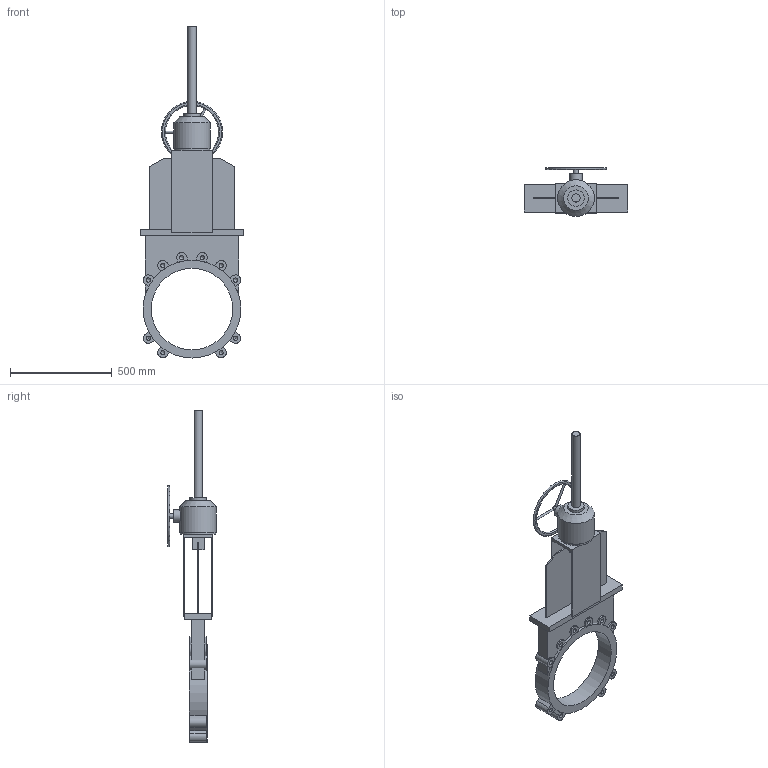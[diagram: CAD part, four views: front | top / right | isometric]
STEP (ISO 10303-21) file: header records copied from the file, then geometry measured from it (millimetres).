
FILE_DESCRIPTION(('STEP AP203'), '1');
FILE_NAME('Çàäâèæêà øèáåðíàÿ K51GV DN400 ðåäóêòîð+âûäâèæíîé øïèíäåëü', '', ('UNSPECIFIED'), ('UNSPECIFIED'), 'ASCON STEP Converter 1.6', 'ASCON Math Kernel', '');
FILE_SCHEMA(('CONFIG_CONTROL_DESIGN'));
Length unit declared in the file: millimetre
Bounding box: 510 x 240 x 1631 mm (x, y, z)
Volume: 19741506.5 mm3; surface area: 1614480 mm2
Topology: 1 solids, 1 shells, 175 faces, 466 edges, 297 vertices
Faces by surface type: plane 105, cylinder 45, cone 21, torus 4
Full cylindrical faces by diameter (mm): 10 x3, 20.752 x20, 24 x1, 40 x1, 60 x1, 80 x1, 175 x1, 180 x1, 400 x1, 480 x1
Entity records: 7717 total; most frequent: CARTESIAN_POINT 2164, DIRECTION 874, ORIENTED_EDGE 784, EDGE_CURVE 392, AXIS2_PLACEMENT_3D 319, VERTEX_POINT 277, EDGE_LOOP 245, LINE 236
